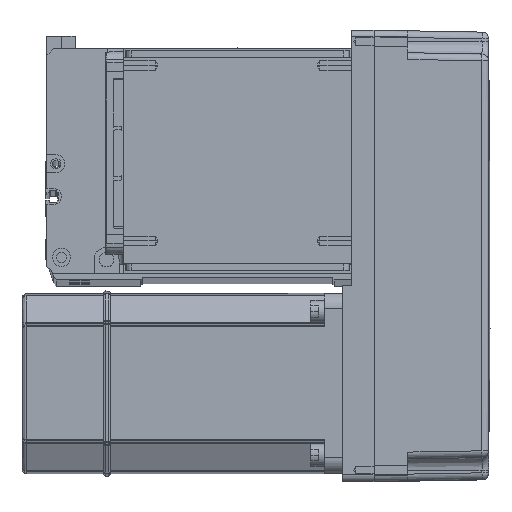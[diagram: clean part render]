
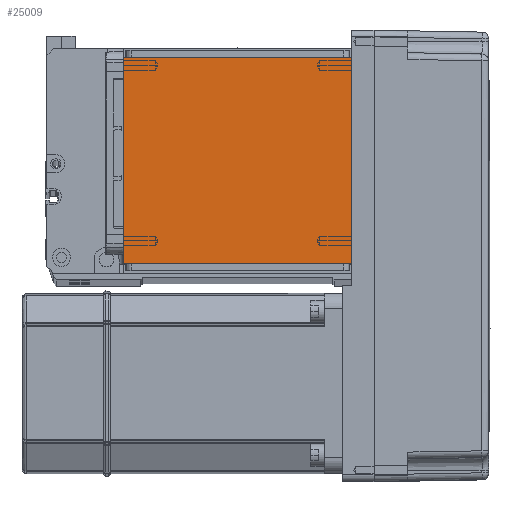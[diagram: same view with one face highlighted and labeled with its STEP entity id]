
A CAD part, top view. The second image highlights one B-rep face of the part: STEP entity #25009.
In plain terms, the highlighted planar face has unit normal (0, 0, 1).
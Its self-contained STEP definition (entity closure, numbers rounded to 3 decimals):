
#3973 = CARTESIAN_POINT ( 'NONE',  ( -50.5, 20., 115. ) ) ;
#4567 = CARTESIAN_POINT ( 'NONE',  ( -50.5, 111.5, 115. ) ) ;
#4570 = CARTESIAN_POINT ( 'NONE',  ( -70.004, 111.5, 115. ) ) ;
#4594 = EDGE_CURVE ( 'NONE', #25227, #42883, #25935, .T. ) ;
#5071 = CARTESIAN_POINT ( 'NONE',  ( 50.5, 122., 115. ) ) ;
#6256 = VECTOR ( 'NONE', #19017, 1000. ) ;
#9174 = LINE ( 'NONE', #14317, #6256 ) ;
#9226 = VECTOR ( 'NONE', #24052, 1000. ) ;
#9759 = CARTESIAN_POINT ( 'NONE',  ( 50.5, 111.5, 115. ) ) ;
#10092 = EDGE_CURVE ( 'NONE', #31709, #28191, #9174, .T. ) ;
#12392 = CARTESIAN_POINT ( 'NONE',  ( -50.5, 122., 115. ) ) ;
#14317 = CARTESIAN_POINT ( 'NONE',  ( -70.004, 20., 115. ) ) ;
#14368 = EDGE_CURVE ( 'NONE', #31709, #42883, #55928, .T. ) ;
#14748 = DIRECTION ( 'NONE',  ( 0., 0., 1. ) ) ;
#14829 = CARTESIAN_POINT ( 'NONE',  ( 50.5, 20., 115. ) ) ;
#19017 = DIRECTION ( 'NONE',  ( -1., 0., 0. ) ) ;
#22589 = ORIENTED_EDGE ( 'NONE', *, *, #14368, .T. ) ;
#24052 = DIRECTION ( 'NONE',  ( 0., 1., 0. ) ) ;
#24206 = PLANE ( 'NONE',  #34586 ) ;
#25009 = ADVANCED_FACE ( 'NONE', ( #30345 ), #24206, .T. ) ;
#25227 = VERTEX_POINT ( 'NONE', #4567 ) ;
#25878 = ORIENTED_EDGE ( 'NONE', *, *, #49335, .T. ) ;
#25935 = LINE ( 'NONE', #4570, #33947 ) ;
#28191 = VERTEX_POINT ( 'NONE', #3973 ) ;
#28474 = EDGE_LOOP ( 'NONE', ( #47677, #25878, #58213, #22589 ) ) ;
#30345 = FACE_OUTER_BOUND ( 'NONE', #28474, .T. ) ;
#31709 = VERTEX_POINT ( 'NONE', #14829 ) ;
#33571 = DIRECTION ( 'NONE',  ( 1., 0., 0. ) ) ;
#33947 = VECTOR ( 'NONE', #46388, 1000. ) ;
#34586 = AXIS2_PLACEMENT_3D ( 'NONE', #52313, #14748, #33571 ) ;
#42883 = VERTEX_POINT ( 'NONE', #9759 ) ;
#45279 = DIRECTION ( 'NONE',  ( 0., -1., 0. ) ) ;
#46388 = DIRECTION ( 'NONE',  ( 1., 0., 0. ) ) ;
#46735 = VECTOR ( 'NONE', #45279, 1000. ) ;
#47677 = ORIENTED_EDGE ( 'NONE', *, *, #4594, .F. ) ;
#48167 = LINE ( 'NONE', #12392, #46735 ) ;
#49335 = EDGE_CURVE ( 'NONE', #25227, #28191, #48167, .T. ) ;
#52313 = CARTESIAN_POINT ( 'NONE',  ( 0., 0., 115. ) ) ;
#55928 = LINE ( 'NONE', #5071, #9226 ) ;
#58213 = ORIENTED_EDGE ( 'NONE', *, *, #10092, .F. ) ;
